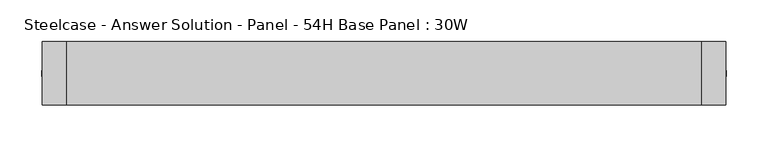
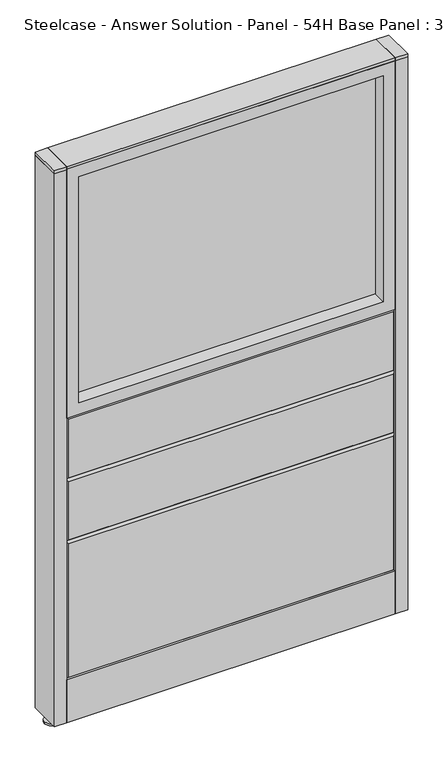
"""IFC4 building model written with IfcOpenShell, lengths in millimetres: furniture geometry, Steelcase - Answer Solution - Panel - 54H Base Panel : 30W."""

from ifc_helpers import new_model, si_unit, point, frame, frame_2d, origin, place, context, project, spatial, polyline, circle_curve, trimmed, segment, composite_curve, outline, extrude, faceted_brep, source, transform, mapped, element, save


def steelcase_answer_solution_panel_54h_base_panel_30w_615173d8(model_context):
    return source(origin(), model_context, "Body", "SolidModel", [
        extrude(outline(composite_curve([segment(trimmed(circle_curve(frame_2d((395.224, 0.0320214)), 5.08), [point((400.304, 0.0320214))], [point((390.144, 0.0320214))], False, "CARTESIAN"), True, "CONTINUOUS"), segment(trimmed(circle_curve(frame_2d((395.224, 0.0320214)), 5.08), [point((390.144, 0.0320214))], [point((400.304, 0.0320214))], False, "CARTESIAN"), True, "CONTINUOUS")], self_intersect=False)), frame((0.0, 0.0, 5.0799671), z_axis=(0.0, 0.0, 1.0), x_axis=(1.0, 0.0, 0.0)), (0.0, 0.0, 1.0), 10.414),
        extrude(outline(composite_curve([segment(trimmed(circle_curve(frame_2d((395.224, 0.0320214)), 15.24), [point((410.464, 0.0320214))], [point((379.984, 0.0320214))], False, "CARTESIAN"), True, "CONTINUOUS"), segment(trimmed(circle_curve(frame_2d((395.224, 0.0320214)), 15.24), [point((379.984, 0.0320214))], [point((410.464, 0.0320214))], False, "CARTESIAN"), True, "CONTINUOUS")], self_intersect=False)), frame((0.0, 0.0, -3.29e-05), z_axis=(0.0, 0.0, 1.0), x_axis=(1.0, 0.0, 0.0)), (0.0, 0.0, 1.0), 5.08),
        extrude(outline(polyline([(409.575, 38.1320408), (409.575, -38.0679592), (381.0, -38.0679592), (381.0, 38.1320408), (409.575, 38.1320408)])), frame((0.0, 0.0, 1370.6348), z_axis=(0.0, 0.0, 1.0), x_axis=(1.0, 0.0, 0.0)), (0.0, 0.0, 1.0), 7.3151671),
        extrude(outline(polyline([(409.575, 38.1320408), (409.575, -38.0679592), (381.0, -38.0679592), (381.0, 38.1320408), (409.575, 38.1320408)])), frame((0.0, 0.0, 15.4939671), z_axis=(0.0, 0.0, 1.0), x_axis=(1.0, 0.0, 0.0)), (0.0, 0.0, 1.0), 1355.1408329),
        extrude(outline(composite_curve([segment(trimmed(circle_curve(frame_2d((-395.224, 0.0320214)), 5.08), [point((-400.304, 0.0320214))], [point((-390.144, 0.0320214))], False, "CARTESIAN"), True, "CONTINUOUS"), segment(trimmed(circle_curve(frame_2d((-395.224, 0.0320214)), 5.08), [point((-390.144, 0.0320214))], [point((-400.304, 0.0320214))], False, "CARTESIAN"), True, "CONTINUOUS")], self_intersect=False)), frame((0.0, 0.0, 5.0799671), z_axis=(0.0, 0.0, 1.0), x_axis=(1.0, 0.0, 0.0)), (0.0, 0.0, 1.0), 10.414),
        extrude(outline(composite_curve([segment(trimmed(circle_curve(frame_2d((-395.224, 0.0320214)), 15.24), [point((-410.464, 0.0320214))], [point((-379.984, 0.0320214))], False, "CARTESIAN"), True, "CONTINUOUS"), segment(trimmed(circle_curve(frame_2d((-395.224, 0.0320214)), 15.24), [point((-379.984, 0.0320214))], [point((-410.464, 0.0320214))], False, "CARTESIAN"), True, "CONTINUOUS")], self_intersect=False)), frame((0.0, 0.0, -3.29e-05), z_axis=(0.0, 0.0, 1.0), x_axis=(1.0, 0.0, 0.0)), (0.0, 0.0, 1.0), 5.08),
        extrude(outline(polyline([(-409.575, 38.1320408), (-381.0, 38.1320408), (-381.0, -38.0679592), (-409.575, -38.0679592), (-409.575, 38.1320408)])), frame((0.0, 0.0, 1370.6348), z_axis=(0.0, 0.0, 1.0), x_axis=(1.0, 0.0, 0.0)), (0.0, 0.0, 1.0), 7.3151671),
        extrude(outline(polyline([(-409.575, 38.1320408), (-381.0, 38.1320408), (-381.0, -38.0679592), (-409.575, -38.0679592), (-409.575, 38.1320408)])), frame((0.0, 0.0, 15.4939671), z_axis=(0.0, 0.0, 1.0), x_axis=(1.0, 0.0, 0.0)), (0.0, 0.0, 1.0), 1355.1408329),
        extrude(outline(polyline([(-353.06, 6.346049), (353.06, 6.346049), (353.06, -6.353951), (-353.06, -6.353951), (-353.06, 6.346049)])), frame((0.0, 0.0, 789.94), z_axis=(0.0, 0.0, 1.0), x_axis=(1.0, 0.0, 0.0)), (0.0, 0.0, 1.0), 553.72),
        extrude(outline(polyline([(1371.6, -381.0), (762.0, -381.0), (762.0, 381.0), (1371.6, 381.0), (1371.6, -381.0)]), holes=[polyline([(1343.66, -353.06), (1343.66, 353.06), (789.94, 353.06), (789.94, -353.06), (1343.66, -353.06)])]), frame((0.0, -38.103951, 0.0), z_axis=(0.0, 1.0, 0.0), x_axis=(0.0, 0.0, 1.0)), (0.0, 0.0, 1.0), 76.2),
        faceted_brep([(-376.174, 38.1635011, 757.174), (376.174, 38.1635011, 757.174), (376.174, 38.1635011, 614.426), (-376.174, 38.1635011, 614.426), (-381.0, 33.3375011, 762.0), (-381.0, 33.3375011, 609.6), (381.0, 33.3375011, 609.6), (381.0, 33.3375011, 762.0)], [[[0, 1, 2, 3]], [[4, 5, 6, 7]], [[4, 7, 1, 0]], [[7, 6, 2, 1]], [[6, 5, 3, 2]], [[5, 4, 0, 3]]]),
        faceted_brep([(-376.174, 38.1635011, 604.774), (376.174, 38.1635011, 604.774), (376.174, 38.1635011, 462.026), (-376.174, 38.1635011, 462.026), (-381.0, 33.3375011, 609.6), (-381.0, 33.3375011, 457.2), (381.0, 33.3375011, 457.2), (381.0, 33.3375011, 609.6)], [[[0, 1, 2, 3]], [[4, 5, 6, 7]], [[4, 7, 1, 0]], [[7, 6, 2, 1]], [[6, 5, 3, 2]], [[5, 4, 0, 3]]]),
        faceted_brep([(-376.174, 38.1635011, 452.374), (376.174, 38.1635011, 452.374), (376.174, 38.1635011, 125.476), (-376.174, 38.1635011, 125.476), (-381.0, 33.3375011, 457.2), (-381.0, 33.3375011, 120.65), (381.0, 33.3375011, 120.65), (381.0, 33.3375011, 457.2)], [[[0, 1, 2, 3]], [[4, 5, 6, 7]], [[4, 7, 1, 0]], [[7, 6, 2, 1]], [[6, 5, 3, 2]], [[5, 4, 0, 3]]]),
        extrude(outline(polyline([(353.06, -6.346049), (-353.06, -6.346049), (-353.06, 6.353951), (353.06, 6.353951), (353.06, -6.346049)])), frame((0.0, 0.0, 789.94), z_axis=(0.0, 0.0, 1.0), x_axis=(1.0, 0.0, 0.0)), (0.0, 0.0, 1.0), 553.72),
        extrude(outline(polyline([(1371.6, 381.0), (1371.6, -381.0), (762.0, -381.0), (762.0, 381.0), (1371.6, 381.0)]), holes=[polyline([(1343.66, 353.06), (789.94, 353.06), (789.94, -353.06), (1343.66, -353.06), (1343.66, 353.06)])]), frame((0.0, -38.096049, 0.0), z_axis=(0.0, 1.0, 0.0), x_axis=(0.0, 0.0, 1.0)), (0.0, 0.0, 1.0), 76.2),
        faceted_brep([(376.174, -38.1635011, 757.174), (-376.174, -38.1635011, 757.174), (-376.174, -38.1635011, 614.426), (376.174, -38.1635011, 614.426), (381.0, -33.3375011, 762.0), (381.0, -33.3375011, 609.6), (-381.0, -33.3375011, 609.6), (-381.0, -33.3375011, 762.0)], [[[0, 1, 2, 3]], [[4, 5, 6, 7]], [[4, 7, 1, 0]], [[7, 6, 2, 1]], [[6, 5, 3, 2]], [[5, 4, 0, 3]]]),
        faceted_brep([(376.174, -38.1635011, 604.774), (-376.174, -38.1635011, 604.774), (-376.174, -38.1635011, 462.026), (376.174, -38.1635011, 462.026), (381.0, -33.3375011, 609.6), (381.0, -33.3375011, 457.2), (-381.0, -33.3375011, 457.2), (-381.0, -33.3375011, 609.6)], [[[0, 1, 2, 3]], [[4, 5, 6, 7]], [[4, 7, 1, 0]], [[7, 6, 2, 1]], [[6, 5, 3, 2]], [[5, 4, 0, 3]]]),
        faceted_brep([(376.174, -38.1635011, 452.374), (-376.174, -38.1635011, 452.374), (-376.174, -38.1635011, 125.476), (376.174, -38.1635011, 125.476), (381.0, -33.3375011, 457.2), (381.0, -33.3375011, 120.65), (-381.0, -33.3375011, 120.65), (-381.0, -33.3375011, 457.2)], [[[0, 1, 2, 3]], [[4, 5, 6, 7]], [[4, 7, 1, 0]], [[7, 6, 2, 1]], [[6, 5, 3, 2]], [[5, 4, 0, 3]]]),
        extrude(outline(polyline([(381.0, 38.1000194), (381.0, -38.1000194), (-381.0, -38.1000194), (-381.0, 38.1000194), (381.0, 38.1000194)])), frame((0.0, 0.0, 1371.6), z_axis=(0.0, 0.0, 1.0), x_axis=(1.0, 0.0, 0.0)), (0.0, 0.0, 1.0), 6.35),
        extrude(outline(polyline([(25.4000011, 119.8575157), (25.4000011, 120.65), (38.1000194, 120.65), (38.1000194, 15.494), (37.3075215, 15.494), (37.3075215, 119.8575157), (25.4000011, 119.8575157)])), frame((-381.0, 0.0, 0.0), z_axis=(1.0, 0.0, 0.0), x_axis=(0.0, 1.0, 0.0)), (0.0, 0.0, 1.0), 762.0),
        extrude(outline(polyline([(-25.4000011, 119.8575157), (-37.3075215, 119.8575157), (-37.3075215, 15.494), (-38.1000194, 15.494), (-38.1000194, 120.65), (-25.4000011, 120.65), (-25.4000011, 119.8575157)])), frame((-381.0, 0.0, 0.0), z_axis=(1.0, 0.0, 0.0), x_axis=(0.0, 1.0, 0.0)), (0.0, 0.0, 1.0), 762.0),
    ])


if __name__ == "__main__":
    model = new_model("IFC4")
    model_context = context("Model", 3, world=origin())
    ifc_project = project(units=[si_unit("LENGTHUNIT", "METRE", prefix="MILLI")], contexts=[model_context])
    site = spatial("IfcSite", under=ifc_project)
    building = spatial("IfcBuilding", under=site)
    placement = place(None, origin())
    steelcase_answer_solution_panel_54h_base_panel_30w_shape = steelcase_answer_solution_panel_54h_base_panel_30w_615173d8(model_context)
    element("IfcFurniture", 1, ObjectType="Steelcase - Answer Solution - Panel - 54H Base Panel : 30W", at=placement, inside=building, context=model_context, shape_type="MappedRepresentation", body=[
        mapped(steelcase_answer_solution_panel_54h_base_panel_30w_shape, transform((0.0, 0.0, 0.0), x_axis=(1.0, 0.0, 0.0), y_axis=(0.0, 1.0, 0.0), z_axis=(0.0, 0.0, 1.0))),
    ])
    save(model, "model.ifc")
